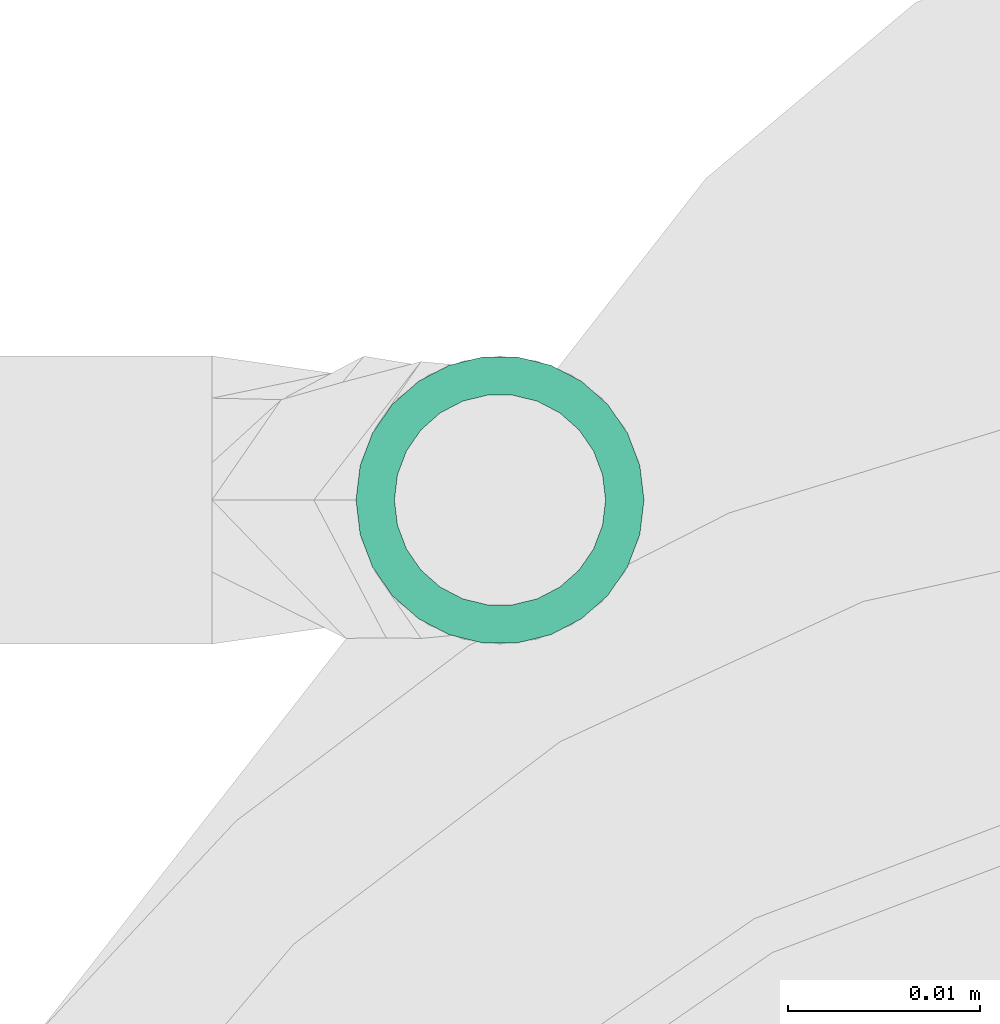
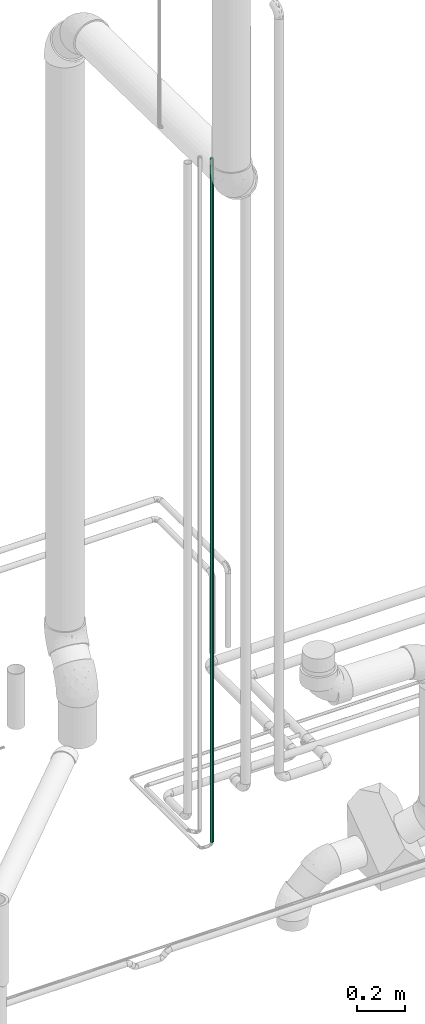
# One storey, part 48 of 156: 1 flow segment.
"""IFC2X3 building model written with IfcOpenShell, lengths in millimetres."""

from ifc_helpers import new_model, entity, si_unit, converted_unit, derived_unit, direction, frame, origin_with_axes, origin_2d_with_axis, place, context, subcontext, project, spatial, hollow_circle, extrude, source, transform, mapped, type_object, element, save


model = new_model("IFC2X3")

# Units and contexts
model_context = context("Model", 3, precision=0.01, world=frame((0.0, 4.29681676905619e-09, 0.0)), true_north=direction((4.01073788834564e-13, 1.0)))
plan_context = context("Plan", 3, precision=0.01, world=frame((0.0, 4.29681676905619e-09, 0.0)), true_north=direction((4.01073788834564e-13, 1.0)))
body_context = subcontext(model_context, "Body", "Model", "MODEL_VIEW")
ifc_project = project(units=[converted_unit("PLANEANGLEUNIT", "DEGREE", entity("IfcPositiveLengthMeasure", 0.0174532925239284), si_unit("PLANEANGLEUNIT", "RADIAN"), dimensions=[0, 0, 0, 0, 0, 0, 0]), si_unit("AREAUNIT", "SQUARE_METRE"), si_unit("LENGTHUNIT", "METRE", prefix="MILLI"), si_unit("MASSUNIT", "GRAM", prefix="KILO"), si_unit("POWERUNIT", "WATT"), si_unit("PRESSUREUNIT", "PASCAL", prefix="KILO"), si_unit("FORCEUNIT", "NEWTON", prefix="KILO"), si_unit("ELECTRICVOLTAGEUNIT", "VOLT"), si_unit("ELECTRICCURRENTUNIT", "AMPERE"), si_unit("THERMODYNAMICTEMPERATUREUNIT", "DEGREE_CELSIUS"), si_unit("TIMEUNIT", "SECOND"), si_unit("VOLUMEUNIT", "CUBIC_METRE"), derived_unit("LINEARVELOCITYUNIT", [(si_unit("LENGTHUNIT", "METRE"), 1), (si_unit("TIMEUNIT", "SECOND"), -1)]), derived_unit("VOLUMETRICFLOWRATEUNIT", [(si_unit("VOLUMEUNIT", "CUBIC_METRE"), 1), (si_unit("TIMEUNIT", "SECOND"), -1)]), derived_unit("THERMALTRANSMITTANCEUNIT", [(si_unit("POWERUNIT", "WATT"), 1), (si_unit("THERMODYNAMICTEMPERATUREUNIT", "KELVIN"), -1), (si_unit("AREAUNIT", "SQUARE_METRE"), -1)]), derived_unit("SOUNDPRESSUREUNIT", [(si_unit("PRESSUREUNIT", "PASCAL"), 1)])], contexts=[model_context, plan_context])

# Site, building, storey
site_placement = place(None, frame((0.0, -4.29681676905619e-09, 0.0), z_axis=(0.0, 0.0, 1.0), x_axis=(1.0, 0.0, 0.0)))
site = spatial("IfcSite", under=ifc_project, at=site_placement, CompositionType="ELEMENT")
building_placement = place(site_placement, frame((0.0, 4.29681676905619e-09, 0.0), z_axis=(0.0, 0.0, 1.0), x_axis=(1.0, 0.0, 0.0)))
building = spatial("IfcBuilding", under=site, at=building_placement, Name="mc-building", CompositionType="ELEMENT")
storey_placement = place(building_placement, frame((0.0, 0.0, 205200.0), z_axis=(0.0, 0.0, 1.0), x_axis=(1.0, 0.0, 0.0)))
storey = spatial("IfcBuildingStorey", under=building, at=storey_placement, Name="Nivå D + 1,2 m", CompositionType="ELEMENT", Elevation=205200.0)

# Flow segment
pipe_segment_type = type_object("IfcPipeSegmentType", Name="Kobberrør", PredefinedType="RIGIDSEGMENT")
shared_shape = source(origin_with_axes(), body_context, "Body", "SweptSolid", [
    extrude(hollow_circle(Radius=7.5, WallThickness=2.0, at=origin_2d_with_axis()), frame((0.0, 0.0, 0.0), z_axis=(1.0, 0.0, 0.0), x_axis=(0.0, 1.0, 0.0)), (0.0, 0.0, 1.0), 3445.4),
])
flow_segment_placement = place(storey_placement, frame((324128.525, 462890.0, 7768.43293000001), z_axis=(0.0, -1.0, 0.0), x_axis=(0.0, 0.0, -1.0)))
element("IfcFlowSegment", 1, at=flow_segment_placement, inside=storey, type_object=pipe_segment_type, Name="Kobberrør", context=body_context, shape_type="MappedRepresentation", body=[
    mapped(shared_shape, transform((0.0, 0.0, 0.0), scale=1.0)),
])

save(model, "model.ifc")
